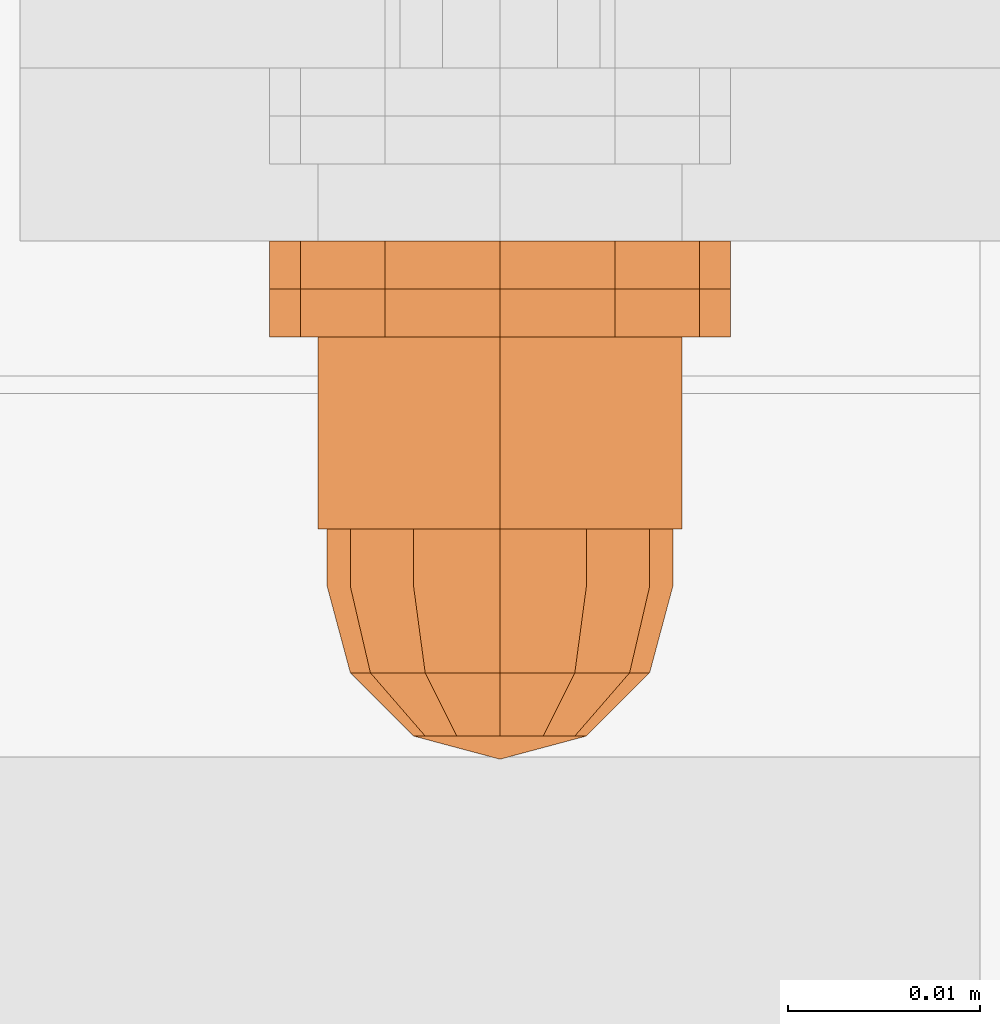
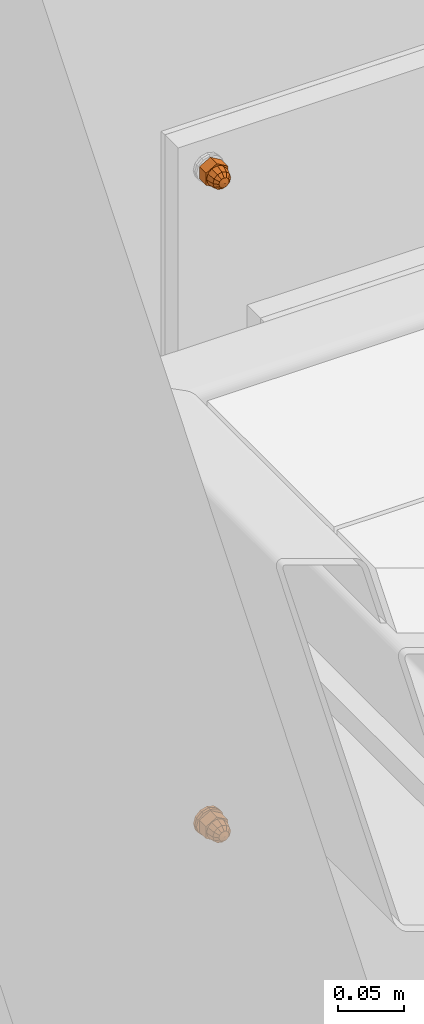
# One storey, part 138 of 162: 4 proxies.
"""IFC2X3 building model written with IfcOpenShell, lengths in millimetres."""

from ifc_helpers import new_model, entity, si_unit, converted_unit, origin_with_axes, place, context, project, spatial, faceted_brep, material, element, save


model = new_model("IFC2X3")

# Units and contexts
model_context = context("Model", 3, precision=1e-09, world=origin_with_axes())
ifc_project = project(units=[si_unit("LENGTHUNIT", "METRE", prefix="MILLI"), si_unit("AREAUNIT", "SQUARE_METRE"), si_unit("VOLUMEUNIT", "CUBIC_METRE"), converted_unit("PLANEANGLEUNIT", "DEGREE", entity("IfcPlaneAngleMeasure", 0.01745329), si_unit("PLANEANGLEUNIT", "RADIAN"), dimensions=[0, 0, 0, 0, 0, 0, 0])], contexts=[model_context])

# Site, building, storey
site_placement = place(None, origin_with_axes())
site = spatial("IfcSite", under=ifc_project, at=site_placement, Name="Hermannstra?e 1a, 60318 Frankfurt", CompositionType="ELEMENT")
building_placement = place(site_placement, origin_with_axes())
building = spatial("IfcBuilding", under=site, at=building_placement, Name="Struktur 1", CompositionType="ELEMENT")
storey_placement = place(building_placement, origin_with_axes())
storey = spatial("IfcBuildingStorey", under=building, at=storey_placement, Name="Default Storey", CompositionType="ELEMENT", Elevation=0.0)

# Proxies
ifc_material_1 = material(Name="A4")
proxy_1_placement = place(None, origin_with_axes())
element("IfcBuildingElementProxy", 1, at=proxy_1_placement, inside=storey, material=ifc_material_1, ObjectType="-", context=model_context, shape_type="Brep", body=[
    faceted_brep([(2684.310071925, 2705.610081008, 4080.0), (2684.310071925, 2695.610081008, 4080.0), (2683.506224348, 2695.610081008, 4083.0), (2683.506224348, 2705.610081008, 4083.0), (2681.310071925, 2695.610081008, 4085.196152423), (2681.310071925, 2705.610081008, 4085.196152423), (2683.506224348, 2705.610081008, 4077.0), (2683.506224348, 2695.610081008, 4077.0), (2687.789941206, 2705.610081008, 4074.526794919), (2678.310071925, 2705.610081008, 4069.053589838), (2668.830202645, 2705.610081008, 4074.526794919), (2668.830202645, 2705.610081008, 4085.473205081), (2678.310071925, 2705.610081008, 4090.946410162), (2687.789941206, 2705.610081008, 4085.473205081), (2681.310071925, 2705.610081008, 4074.803847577), (2678.310071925, 2705.610081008, 4086.0), (2675.310071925, 2705.610081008, 4085.196152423), (2673.113919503, 2705.610081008, 4083.0), (2672.310071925, 2705.610081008, 4080.0), (2673.113919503, 2705.610081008, 4077.0), (2675.310071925, 2705.610081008, 4074.803847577), (2678.310071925, 2705.610081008, 4074.0), (2678.310071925, 2695.610081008, 4069.053589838), (2687.789941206, 2695.610081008, 4074.526794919), (2687.789941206, 2695.610081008, 4085.473205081), (2678.310071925, 2695.610081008, 4090.946410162), (2668.830202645, 2695.610081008, 4085.473205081), (2668.830202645, 2695.610081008, 4074.526794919), (2681.310071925, 2695.610081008, 4074.803847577), (2678.310071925, 2695.610081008, 4074.0), (2675.310071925, 2695.610081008, 4074.803847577), (2673.113919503, 2695.610081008, 4077.0), (2672.310071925, 2695.610081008, 4080.0), (2673.113919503, 2695.610081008, 4083.0), (2675.310071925, 2695.610081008, 4085.196152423), (2678.310071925, 2695.610081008, 4086.0)], [[[0, 1, 2, 3]], [[3, 2, 4, 5]], [[1, 0, 6, 7]], [[8, 9, 10, 11, 12, 13], [14, 6, 0, 3, 5, 15, 16, 17, 18, 19, 20, 21]], [[22, 23, 24, 25, 26, 27], [1, 7, 28, 29, 30, 31, 32, 33, 34, 35, 4, 2]], [[7, 6, 14, 28]], [[24, 23, 8, 13]], [[5, 4, 35, 15]], [[13, 12, 25, 24]], [[28, 14, 21, 29]], [[23, 22, 9, 8]], [[15, 35, 34, 16]], [[12, 11, 26, 25]], [[29, 21, 20, 30]], [[22, 27, 10, 9]], [[16, 34, 33, 17]], [[27, 26, 11, 10]], [[30, 20, 19, 31]], [[17, 33, 32, 18]], [[31, 19, 18, 32]]]),
    faceted_brep([(2678.310071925, 2695.610081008, 4071.0), (2678.310071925, 2692.610081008, 4071.0), (2673.810071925, 2692.610081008, 4072.205771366), (2673.810071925, 2695.610081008, 4072.205771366), (2682.810071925, 2695.610081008, 4072.205771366), (2682.810071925, 2692.610081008, 4072.205771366), (2686.104300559, 2692.610081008, 4084.5), (2682.810071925, 2692.610081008, 4087.794228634), (2678.310071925, 2692.610081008, 4089.0), (2673.810071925, 2692.610081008, 4087.794228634), (2670.515843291, 2692.610081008, 4084.5), (2669.310071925, 2692.610081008, 4080.0), (2670.515843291, 2692.610081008, 4075.5), (2686.104300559, 2692.610081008, 4075.5), (2687.310071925, 2692.610081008, 4080.0), (2670.515843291, 2695.610081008, 4084.5), (2673.810071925, 2695.610081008, 4087.794228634), (2678.310071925, 2695.610081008, 4089.0), (2682.810071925, 2695.610081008, 4087.794228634), (2686.104300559, 2695.610081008, 4084.5), (2687.310071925, 2695.610081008, 4080.0), (2686.104300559, 2695.610081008, 4075.5), (2670.515843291, 2695.610081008, 4075.5), (2669.310071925, 2695.610081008, 4080.0)], [[[0, 1, 2, 3]], [[1, 0, 4, 5]], [[6, 7, 8, 9, 10, 11, 12, 2, 1, 5, 13, 14]], [[15, 16, 17, 18, 19, 20, 21, 4, 0, 3, 22, 23]], [[3, 2, 12, 22]], [[5, 4, 21, 13]], [[22, 12, 11, 23]], [[13, 21, 20, 14]], [[7, 18, 17, 8]], [[19, 6, 14, 20]], [[18, 7, 6, 19]], [[23, 11, 10, 15]], [[8, 17, 16, 9]], [[15, 10, 9, 16]]]),
    faceted_brep([(2686.104300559, 2692.610081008, 4075.5), (2685.060071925, 2688.110081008, 4076.102885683), (2682.207186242, 2688.110081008, 4073.25), (2682.810071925, 2692.610081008, 4072.205771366), (2670.515843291, 2692.610081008, 4084.5), (2673.810071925, 2692.610081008, 4087.794228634), (2678.310071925, 2692.610081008, 4089.0), (2682.810071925, 2692.610081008, 4087.794228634), (2686.104300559, 2692.610081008, 4084.5), (2687.310071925, 2692.610081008, 4080.0), (2678.310071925, 2692.610081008, 4071.0), (2673.810071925, 2692.610081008, 4072.205771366), (2670.515843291, 2692.610081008, 4075.5), (2669.310071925, 2692.610081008, 4080.0), (2678.310071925, 2688.110081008, 4072.205771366), (2686.104300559, 2688.110081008, 4080.0), (2682.810071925, 2684.815852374, 4080.0), (2682.207186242, 2684.815852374, 4077.75), (2674.412957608, 2688.110081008, 4073.25), (2680.560071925, 2684.815852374, 4076.102885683), (2685.060071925, 2688.110081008, 4083.897114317), (2682.207186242, 2684.815852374, 4082.25), (2678.310071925, 2684.815852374, 4075.5), (2678.310071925, 2683.610081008, 4080.0), (2682.207186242, 2688.110081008, 4086.75), (2680.560071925, 2684.815852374, 4083.897114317), (2678.310071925, 2688.110081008, 4087.794228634), (2671.560071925, 2688.110081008, 4076.102885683), (2676.060071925, 2684.815852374, 4076.102885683), (2678.310071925, 2684.815852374, 4084.5), (2674.412957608, 2688.110081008, 4086.75), (2676.060071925, 2684.815852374, 4083.897114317), (2670.515843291, 2688.110081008, 4080.0), (2674.412957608, 2684.815852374, 4077.75), (2671.560071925, 2688.110081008, 4083.897114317), (2674.412957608, 2684.815852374, 4082.25), (2673.810071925, 2684.815852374, 4080.0)], [[[0, 1, 2, 3]], [[4, 5, 6, 7, 8, 9, 0, 3, 10, 11, 12, 13]], [[3, 2, 14, 10]], [[15, 16, 17, 1]], [[1, 0, 9, 15]], [[10, 14, 18, 11]], [[1, 17, 19, 2]], [[16, 15, 20, 21]], [[2, 19, 22, 14]], [[23, 17, 16]], [[24, 25, 21, 20]], [[23, 16, 21]], [[24, 7, 6, 26]], [[20, 8, 7, 24]], [[15, 9, 8, 20]], [[11, 18, 27, 12]], [[14, 22, 28, 18]], [[23, 19, 17]], [[26, 29, 25, 24]], [[23, 21, 25]], [[23, 22, 19]], [[26, 6, 5, 30]], [[29, 26, 30, 31]], [[23, 25, 29]], [[12, 27, 32, 13]], [[18, 28, 33, 27]], [[23, 28, 22]], [[23, 29, 31]], [[23, 33, 28]], [[30, 5, 4, 34]], [[31, 30, 34, 35]], [[23, 31, 35]], [[13, 32, 34, 4]], [[27, 33, 36, 32]], [[23, 36, 33]], [[23, 35, 36]], [[35, 34, 32, 36]]]),
])
proxy_2_placement = place(None, origin_with_axes())
element("IfcBuildingElementProxy", 2, at=proxy_2_placement, inside=storey, material=ifc_material_1, ObjectType="-", context=model_context, shape_type="Brep", body=[
    faceted_brep([(2684.310071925, 2695.610081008, 3480.0), (2684.310071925, 2705.610081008, 3480.0), (2683.506224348, 2705.610081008, 3477.0), (2683.506224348, 2695.610081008, 3477.0), (2681.310071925, 2705.610081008, 3474.803847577), (2681.310071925, 2695.610081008, 3474.803847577), (2683.506224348, 2695.610081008, 3483.0), (2683.506224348, 2705.610081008, 3483.0), (2687.789941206, 2705.610081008, 3485.473205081), (2687.789941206, 2705.610081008, 3474.526794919), (2678.310071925, 2705.610081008, 3469.053589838), (2668.830202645, 2705.610081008, 3474.526794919), (2668.830202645, 2705.610081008, 3485.473205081), (2678.310071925, 2705.610081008, 3490.946410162), (2681.310071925, 2705.610081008, 3485.196152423), (2678.310071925, 2705.610081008, 3486.0), (2675.310071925, 2705.610081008, 3485.196152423), (2673.113919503, 2705.610081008, 3483.0), (2672.310071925, 2705.610081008, 3480.0), (2673.113919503, 2705.610081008, 3477.0), (2675.310071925, 2705.610081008, 3474.803847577), (2678.310071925, 2705.610081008, 3474.0), (2687.789941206, 2695.610081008, 3485.473205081), (2678.310071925, 2695.610081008, 3490.946410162), (2668.830202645, 2695.610081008, 3485.473205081), (2668.830202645, 2695.610081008, 3474.526794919), (2678.310071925, 2695.610081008, 3469.053589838), (2687.789941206, 2695.610081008, 3474.526794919), (2681.310071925, 2695.610081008, 3485.196152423), (2678.310071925, 2695.610081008, 3474.0), (2678.310071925, 2695.610081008, 3486.0), (2675.310071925, 2695.610081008, 3474.803847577), (2675.310071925, 2695.610081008, 3485.196152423), (2673.113919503, 2695.610081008, 3477.0), (2673.113919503, 2695.610081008, 3483.0), (2672.310071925, 2695.610081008, 3480.0)], [[[0, 1, 2, 3]], [[3, 2, 4, 5]], [[1, 0, 6, 7]], [[8, 9, 10, 11, 12, 13], [7, 14, 15, 16, 17, 18, 19, 20, 21, 4, 2, 1]], [[22, 23, 24, 25, 26, 27]], [[7, 6, 28, 14]], [[22, 27, 9, 8]], [[5, 4, 21, 29]], [[10, 9, 27, 26]], [[14, 28, 30, 15]], [[23, 22, 8, 13]], [[29, 21, 20, 31]], [[11, 10, 26, 25]], [[15, 30, 32, 16]], [[24, 23, 13, 12]], [[31, 20, 19, 33]], [[25, 24, 12, 11]], [[16, 32, 34, 17]], [[33, 19, 18, 35]], [[17, 34, 35, 18]]]),
    faceted_brep([(2678.310071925, 2692.610081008, 3489.0), (2678.310071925, 2695.610081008, 3489.0), (2673.810071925, 2695.610081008, 3487.794228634), (2673.810071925, 2692.610081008, 3487.794228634), (2682.810071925, 2692.610081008, 3487.794228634), (2682.810071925, 2695.610081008, 3487.794228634), (2682.810071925, 2692.610081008, 3472.205771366), (2686.104300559, 2692.610081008, 3475.5), (2687.310071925, 2692.610081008, 3480.0), (2686.104300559, 2692.610081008, 3484.5), (2670.515843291, 2692.610081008, 3484.5), (2669.310071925, 2692.610081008, 3480.0), (2670.515843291, 2692.610081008, 3475.5), (2673.810071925, 2692.610081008, 3472.205771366), (2678.310071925, 2692.610081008, 3471.0), (2673.810071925, 2695.610081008, 3472.205771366), (2670.515843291, 2695.610081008, 3475.5), (2669.310071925, 2695.610081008, 3480.0), (2670.515843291, 2695.610081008, 3484.5), (2686.104300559, 2695.610081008, 3484.5), (2687.310071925, 2695.610081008, 3480.0), (2686.104300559, 2695.610081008, 3475.5), (2682.810071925, 2695.610081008, 3472.205771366), (2678.310071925, 2695.610081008, 3471.0)], [[[0, 1, 2, 3]], [[1, 0, 4, 5]], [[6, 7, 8, 9, 4, 0, 3, 10, 11, 12, 13, 14]], [[15, 16, 17, 18, 2, 1, 5, 19, 20, 21, 22, 23]], [[3, 2, 18, 10]], [[5, 4, 9, 19]], [[10, 18, 17, 11]], [[19, 9, 8, 20]], [[22, 6, 14, 23]], [[7, 21, 20, 8]], [[6, 22, 21, 7]], [[11, 17, 16, 12]], [[23, 14, 13, 15]], [[12, 16, 15, 13]]]),
    faceted_brep([(2685.060071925, 2688.110081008, 3483.897114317), (2686.104300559, 2692.610081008, 3484.5), (2682.810071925, 2692.610081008, 3487.794228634), (2682.207186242, 2688.110081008, 3486.75), (2673.810071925, 2692.610081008, 3472.205771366), (2670.515843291, 2692.610081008, 3475.5), (2669.310071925, 2692.610081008, 3480.0), (2670.515843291, 2692.610081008, 3484.5), (2673.810071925, 2692.610081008, 3487.794228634), (2678.310071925, 2692.610081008, 3489.0), (2687.310071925, 2692.610081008, 3480.0), (2686.104300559, 2692.610081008, 3475.5), (2682.810071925, 2692.610081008, 3472.205771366), (2678.310071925, 2692.610081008, 3471.0), (2678.310071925, 2688.110081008, 3487.794228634), (2682.810071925, 2684.815852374, 3480.0), (2686.104300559, 2688.110081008, 3480.0), (2682.207186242, 2684.815852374, 3482.25), (2674.412957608, 2688.110081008, 3486.75), (2680.560071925, 2684.815852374, 3483.897114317), (2682.207186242, 2684.815852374, 3477.75), (2685.060071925, 2688.110081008, 3476.102885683), (2678.310071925, 2684.815852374, 3484.5), (2678.310071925, 2683.610081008, 3480.0), (2680.560071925, 2684.815852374, 3476.102885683), (2682.207186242, 2688.110081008, 3473.25), (2678.310071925, 2688.110081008, 3472.205771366), (2671.560071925, 2688.110081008, 3483.897114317), (2676.060071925, 2684.815852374, 3483.897114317), (2678.310071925, 2684.815852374, 3475.5), (2674.412957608, 2688.110081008, 3473.25), (2676.060071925, 2684.815852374, 3476.102885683), (2670.515843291, 2688.110081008, 3480.0), (2674.412957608, 2684.815852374, 3482.25), (2671.560071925, 2688.110081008, 3476.102885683), (2674.412957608, 2684.815852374, 3477.75), (2673.810071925, 2684.815852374, 3480.0)], [[[0, 1, 2, 3]], [[4, 5, 6, 7, 8, 9, 2, 1, 10, 11, 12, 13]], [[3, 2, 9, 14]], [[15, 16, 0, 17]], [[1, 0, 16, 10]], [[14, 9, 8, 18]], [[17, 0, 3, 19]], [[16, 15, 20, 21]], [[19, 3, 14, 22]], [[17, 23, 15]], [[24, 25, 21, 20]], [[15, 23, 20]], [[12, 25, 26, 13]], [[11, 21, 25, 12]], [[10, 16, 21, 11]], [[18, 8, 7, 27]], [[22, 14, 18, 28]], [[19, 23, 17]], [[29, 26, 25, 24]], [[20, 23, 24]], [[22, 23, 19]], [[13, 26, 30, 4]], [[26, 29, 31, 30]], [[24, 23, 29]], [[27, 7, 6, 32]], [[28, 18, 27, 33]], [[28, 23, 22]], [[29, 23, 31]], [[33, 23, 28]], [[4, 30, 34, 5]], [[30, 31, 35, 34]], [[31, 23, 35]], [[32, 6, 5, 34]], [[33, 27, 32, 36]], [[36, 23, 33]], [[35, 23, 36]], [[34, 35, 36, 32]]]),
])
proxy_3_placement = place(None, origin_with_axes())
element("IfcBuildingElementProxy", 3, at=proxy_3_placement, inside=storey, material=ifc_material_1, ObjectType="-", context=model_context, shape_type="Brep", body=[
    faceted_brep([(2667.91776708, 2708.110081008, 3486.0), (2667.91776708, 2705.610081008, 3486.0), (2672.310071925, 2705.610081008, 3490.392304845), (2672.310071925, 2708.110081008, 3490.392304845), (2666.310071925, 2705.610081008, 3480.0), (2667.91776708, 2705.610081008, 3474.0), (2672.310071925, 2705.610081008, 3469.607695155), (2678.310071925, 2705.610081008, 3468.0), (2684.310071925, 2705.610081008, 3469.607695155), (2688.702376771, 2705.610081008, 3474.0), (2690.310071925, 2705.610081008, 3480.0), (2688.702376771, 2705.610081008, 3486.0), (2684.310071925, 2705.610081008, 3490.392304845), (2678.310071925, 2705.610081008, 3492.0), (2678.310071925, 2705.610081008, 3486.5), (2681.560071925, 2705.610081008, 3485.629165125), (2683.93923705, 2705.610081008, 3483.25), (2684.810071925, 2705.610081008, 3480.0), (2683.93923705, 2705.610081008, 3476.75), (2681.560071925, 2705.610081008, 3474.370834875), (2678.310071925, 2705.610081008, 3473.5), (2675.060071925, 2705.610081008, 3474.370834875), (2672.680906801, 2705.610081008, 3476.75), (2671.810071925, 2705.610081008, 3480.0), (2672.680906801, 2705.610081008, 3483.25), (2675.060071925, 2705.610081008, 3485.629165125), (2672.680906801, 2708.110081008, 3483.25), (2671.810071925, 2708.110081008, 3480.0), (2672.680906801, 2708.110081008, 3476.75), (2675.060071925, 2708.110081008, 3474.370834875), (2678.310071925, 2708.110081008, 3473.5), (2681.560071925, 2708.110081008, 3474.370834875), (2683.93923705, 2708.110081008, 3476.75), (2684.810071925, 2708.110081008, 3480.0), (2683.93923705, 2708.110081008, 3483.25), (2681.560071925, 2708.110081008, 3485.629165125), (2678.310071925, 2708.110081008, 3486.5), (2675.060071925, 2708.110081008, 3485.629165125), (2666.310071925, 2708.110081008, 3480.0), (2678.310071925, 2708.110081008, 3492.0), (2667.91776708, 2708.110081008, 3474.0), (2684.310071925, 2708.110081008, 3490.392304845), (2672.310071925, 2708.110081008, 3469.607695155), (2688.702376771, 2708.110081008, 3486.0), (2678.310071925, 2708.110081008, 3468.0), (2690.310071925, 2708.110081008, 3480.0), (2684.310071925, 2708.110081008, 3469.607695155), (2688.702376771, 2708.110081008, 3474.0)], [[[0, 1, 2, 3]], [[2, 1, 4, 5, 6, 7, 8, 9, 10, 11, 12, 13], [14, 15, 16, 17, 18, 19, 20, 21, 22, 23, 24, 25]], [[26, 27, 28, 29, 30, 31, 32, 33, 34, 35, 36, 37]], [[24, 26, 37, 25]], [[1, 0, 38, 4]], [[26, 24, 23, 27]], [[25, 37, 36, 14]], [[3, 2, 13, 39]], [[4, 38, 40, 5]], [[27, 23, 22, 28]], [[14, 36, 35, 15]], [[39, 13, 12, 41]], [[5, 40, 42, 6]], [[28, 22, 21, 29]], [[15, 35, 34, 16]], [[41, 12, 11, 43]], [[33, 17, 16, 34]], [[6, 42, 44, 7]], [[29, 21, 20, 30]], [[32, 18, 17, 33]], [[43, 11, 10, 45]], [[19, 31, 30, 20]], [[18, 32, 31, 19]], [[7, 44, 46, 8]], [[45, 10, 9, 47]], [[8, 46, 47, 9]]]),
])
ifc_material_2 = material(Name="Kunststoff")
proxy_4_placement = place(None, origin_with_axes())
element("IfcBuildingElementProxy", 4, at=proxy_4_placement, inside=storey, material=ifc_material_2, ObjectType="-", context=model_context, shape_type="Brep", body=[
    faceted_brep([(2688.702376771, 2710.610081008, 3486.0), (2688.702376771, 2708.110081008, 3486.0), (2690.310071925, 2708.110081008, 3480.0), (2690.310071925, 2710.610081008, 3480.0), (2683.93923705, 2710.610081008, 3483.25), (2681.560071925, 2710.610081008, 3485.629165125), (2678.310071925, 2710.610081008, 3486.5), (2675.060071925, 2710.610081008, 3485.629165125), (2672.680906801, 2710.610081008, 3483.25), (2671.810071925, 2710.610081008, 3480.0), (2672.680906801, 2710.610081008, 3476.75), (2675.060071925, 2710.610081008, 3474.370834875), (2678.310071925, 2710.610081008, 3473.5), (2681.560071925, 2710.610081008, 3474.370834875), (2683.93923705, 2710.610081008, 3476.75), (2684.810071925, 2710.610081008, 3480.0), (2684.810071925, 2708.110081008, 3480.0), (2683.93923705, 2708.110081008, 3483.25), (2684.310071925, 2708.110081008, 3490.392304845), (2678.310071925, 2708.110081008, 3492.0), (2672.310071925, 2708.110081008, 3490.392304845), (2667.91776708, 2708.110081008, 3486.0), (2666.310071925, 2708.110081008, 3480.0), (2667.91776708, 2708.110081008, 3474.0), (2672.310071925, 2708.110081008, 3469.607695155), (2678.310071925, 2708.110081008, 3468.0), (2684.310071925, 2708.110081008, 3469.607695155), (2688.702376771, 2708.110081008, 3474.0), (2684.310071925, 2710.610081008, 3490.392304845), (2683.93923705, 2708.110081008, 3476.75), (2688.702376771, 2710.610081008, 3474.0), (2681.560071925, 2708.110081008, 3485.629165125), (2678.310071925, 2710.610081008, 3492.0), (2681.560071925, 2708.110081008, 3474.370834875), (2684.310071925, 2710.610081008, 3469.607695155), (2678.310071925, 2708.110081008, 3486.5), (2678.310071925, 2708.110081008, 3473.5), (2672.310071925, 2710.610081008, 3490.392304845), (2675.060071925, 2708.110081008, 3485.629165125), (2678.310071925, 2710.610081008, 3468.0), (2675.060071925, 2708.110081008, 3474.370834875), (2667.91776708, 2710.610081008, 3486.0), (2672.680906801, 2708.110081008, 3483.25), (2672.310071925, 2710.610081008, 3469.607695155), (2672.680906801, 2708.110081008, 3476.75), (2666.310071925, 2710.610081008, 3480.0), (2671.810071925, 2708.110081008, 3480.0), (2667.91776708, 2710.610081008, 3474.0)], [[[0, 1, 2, 3]], [[4, 5, 6, 7, 8, 9, 10, 11, 12, 13, 14, 15]], [[15, 16, 17, 4]], [[1, 18, 19, 20, 21, 22, 23, 24, 25, 26, 27, 2]], [[1, 0, 28, 18]], [[16, 15, 14, 29]], [[3, 2, 27, 30]], [[4, 17, 31, 5]], [[18, 28, 32, 19]], [[29, 14, 13, 33]], [[30, 27, 26, 34]], [[5, 31, 35, 6]], [[33, 13, 12, 36]], [[19, 32, 37, 20]], [[6, 35, 38, 7]], [[34, 26, 25, 39]], [[36, 12, 11, 40]], [[20, 37, 41, 21]], [[7, 38, 42, 8]], [[39, 25, 24, 43]], [[40, 11, 10, 44]], [[21, 41, 45, 22]], [[8, 42, 46, 9]], [[43, 24, 23, 47]], [[44, 10, 9, 46]], [[22, 45, 47, 23]]]),
])

save(model, "model.ifc")
